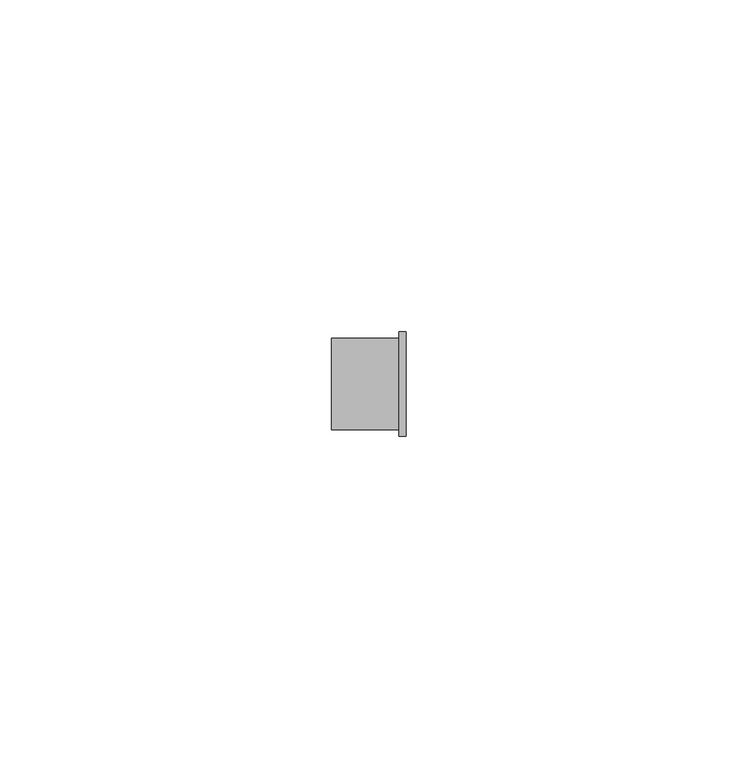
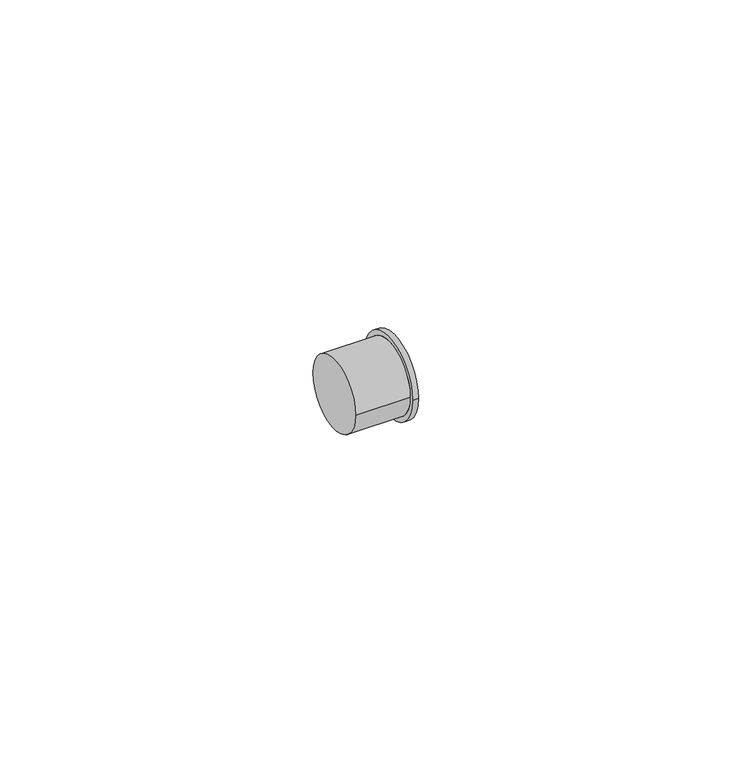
"""IFC4 building model written with IfcOpenShell, lengths in millimetres: pipe fitting geometry, Bucha de redução reta - Soldada - CU : Padrão."""

from ifc_helpers import new_model, si_unit, frame, origin, place, context, project, spatial, circle_curve, source, transform, mapped, element, save
from ifc_brep_helpers import plane_surface, cylinder_surface, advanced_brep


def pipe_fitting_15d42c28(model_context):
    return source(origin(), model_context, "Body", "AdvancedBrep", [
        advanced_brep(
        [(0.0, -6.877, 0.0), (0.0, 6.877, 0.0), (10.169, -6.877, 0.0), (10.169, 6.877, 0.0), (11.169, -7.835, 0.0), (11.169, 7.835, 0.0), (10.169, 7.835, 0.0), (10.169, -7.835, 0.0)],
        [
            (0, 1, circle_curve(frame((0.0, 0.0, 0.0), z_axis=(-1.0, 0.0, 0.0), x_axis=(0.0, 1.0, 0.0)), 6.877)),
            (1, 0, circle_curve(frame((0.0, 0.0, 0.0), z_axis=(-1.0, 0.0, 0.0), x_axis=(0.0, 1.0, 0.0)), 6.877)),
            (0, 2),
            (2, 3, circle_curve(frame((10.169, 0.0, 0.0), z_axis=(-1.0, 0.0, 0.0), x_axis=(0.0, 1.0, 0.0)), 6.877)),
            (3, 1),
            (3, 2, circle_curve(frame((10.169, 0.0, 0.0), z_axis=(-1.0, 0.0, 0.0), x_axis=(0.0, 1.0, 0.0)), 6.877)),
            (4, 5, circle_curve(frame((11.169, 0.0, 0.0), z_axis=(1.0, 0.0, 0.0), x_axis=(0.0, 1.0, 0.0)), 7.835)),
            (5, 4, circle_curve(frame((11.169, 0.0, 0.0), z_axis=(1.0, 0.0, 0.0), x_axis=(0.0, 1.0, 0.0)), 7.835)),
            (6, 7, circle_curve(frame((10.169, 0.0, 0.0), z_axis=(1.0, 0.0, 0.0), x_axis=(0.0, 1.0, 0.0)), 7.835)),
            (7, 4),
            (5, 6),
            (7, 6, circle_curve(frame((10.169, 0.0, 0.0), z_axis=(1.0, 0.0, 0.0), x_axis=(0.0, 1.0, 0.0)), 7.835)),
        ],
        [
            plane_surface(frame((0.0, 0.0, 0.0), z_axis=(-1.0, 0.0, 0.0), x_axis=(0.0, 0.0, 1.0))),
            cylinder_surface(frame((0.0, 0.0, 0.0), z_axis=(-1.0, 0.0, 0.0), x_axis=(0.0, 1.0, 0.0)), 6.877),
            plane_surface(frame((11.169, 0.0, 0.0), z_axis=(1.0, 0.0, 0.0), x_axis=(0.0, 0.0, 1.0))),
            cylinder_surface(frame((10.169, 0.0, 0.0), z_axis=(-1.0, 0.0, 0.0), x_axis=(0.0, 1.0, 0.0)), 7.835),
            plane_surface(frame((10.169, 0.0, 0.0), z_axis=(-1.0, 0.0, 0.0), x_axis=(0.0, 0.0, 1.0))),
        ],
        [
            (0, [[1, 2]]),
            (1, [[-1, 3, 4, 5]]),
            (1, [[-2, -5, 6, -3]]),
            (2, [[7, 8]]),
            (3, [[9, 10, -8, 11]]),
            (3, [[12, -11, -7, -10]]),
            (4, [[-9, -12], [-4, -6]]),
        ],
    ),
    ])


if __name__ == "__main__":
    model = new_model("IFC4")
    model_context = context("Model", 3, world=origin())
    ifc_project = project(units=[si_unit("LENGTHUNIT", "METRE", prefix="MILLI")], contexts=[model_context])
    site = spatial("IfcSite", under=ifc_project)
    building = spatial("IfcBuilding", under=site)
    placement = place(None, origin())
    pipe_fitting_shape = pipe_fitting_15d42c28(model_context)
    element("IfcPipeFitting", 1, ObjectType="Bucha de redução reta - Soldada - CU : Padrão", at=placement, inside=building, context=model_context, shape_type="MappedRepresentation", body=[
        mapped(pipe_fitting_shape, transform((0.0, 0.0, 0.0), x_axis=(1.0, 0.0, 0.0), y_axis=(0.0, 1.0, 0.0), z_axis=(0.0, 0.0, 1.0))),
    ])
    save(model, "model.ifc")
